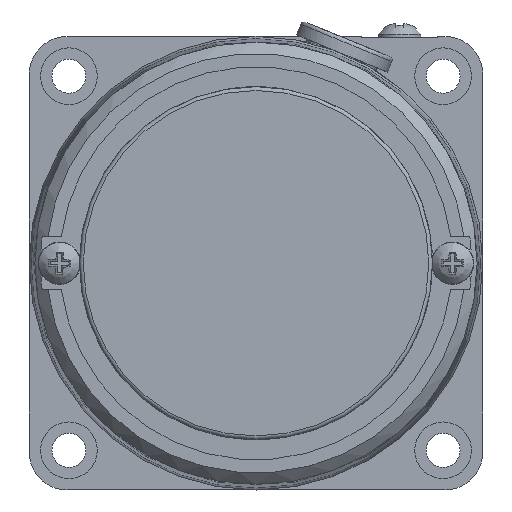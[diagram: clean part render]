
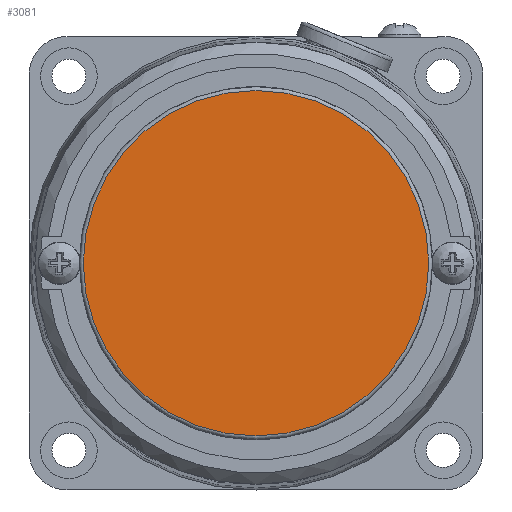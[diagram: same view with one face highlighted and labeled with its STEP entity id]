
A CAD part, left-side view. The second image highlights one B-rep face of the part: STEP entity #3081.
In plain terms, the highlighted planar face has unit normal (-1, 0, 0).
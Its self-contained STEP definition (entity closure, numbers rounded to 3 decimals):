
#586=PLANE('',#3295);
#763=FACE_OUTER_BOUND('',#948,.T.);
#948=EDGE_LOOP('',(#2217));
#1155=CIRCLE('',#3296,22.85);
#1361=VERTEX_POINT('',#5071);
#1687=EDGE_CURVE('',#1361,#1361,#1155,.T.);
#2217=ORIENTED_EDGE('',*,*,#1687,.F.);
#3081=ADVANCED_FACE('',(#763),#586,.T.);
#3295=AXIS2_PLACEMENT_3D('',#5070,#3756,#3757);
#3296=AXIS2_PLACEMENT_3D('',#5072,#3758,#3759);
#3756=DIRECTION('center_axis',(-1.,0.,0.));
#3757=DIRECTION('ref_axis',(0.,-1.,0.));
#3758=DIRECTION('center_axis',(1.,0.,0.));
#3759=DIRECTION('ref_axis',(0.,0.,-1.));
#5070=CARTESIAN_POINT('Origin',(-11.5,0.,19.175));
#5071=CARTESIAN_POINT('',(-11.5,0.,22.85));
#5072=CARTESIAN_POINT('Origin',(-11.5,0.,0.));
